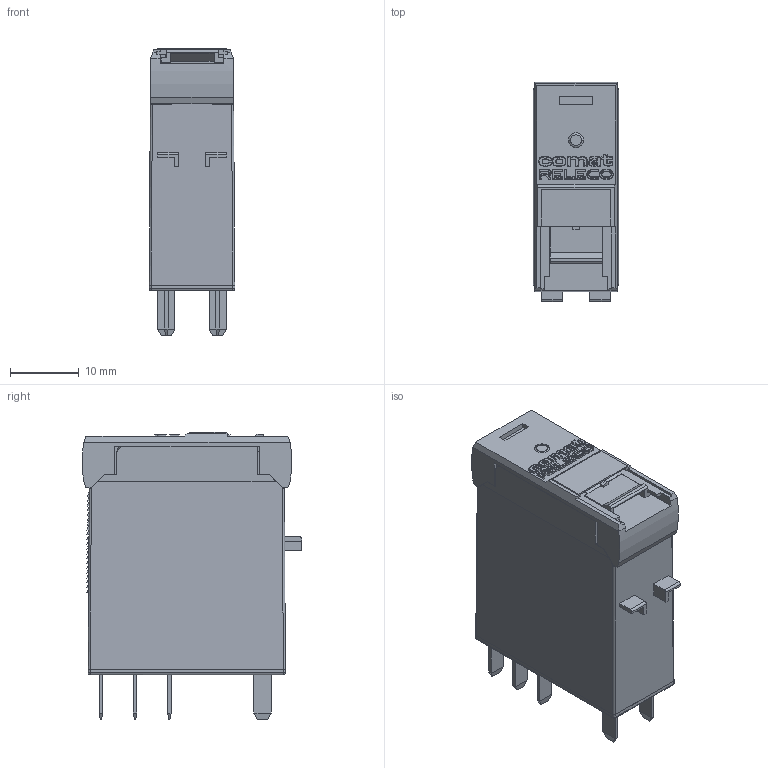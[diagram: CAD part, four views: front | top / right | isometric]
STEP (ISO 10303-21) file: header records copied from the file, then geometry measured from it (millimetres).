
FILE_DESCRIPTION (( 'STEP AP214' ), '1' );
FILE_NAME ('C12.STEP', '2024-03-26T09:43:36', ( '' ), ( '' ), 'SwSTEP 2.0', 'SolidWorks 2022', '' );
FILE_SCHEMA (( 'AUTOMOTIVE_DESIGN' ));
Length unit declared in the file: millimetre
Products named in the file (1): C12
Bounding box: 12.5 x 32.03 x 42 mm (x, y, z)
Volume: 12323.6 mm3; surface area: 5100.1 mm2
Topology: 1 solids, 1 shells, 764 faces, 2033 edges, 1282 vertices
Faces by surface type: plane 523, cylinder 127, bspline 106, sphere 6, torus 2
Entity records: 30114 total; most frequent: CARTESIAN_POINT 8334, ORIENTED_EDGE 4048, DIRECTION 3195, EDGE_CURVE 2024, VECTOR 1625, LINE 1625, VERTEX_POINT 1276, EDGE_LOOP 800
